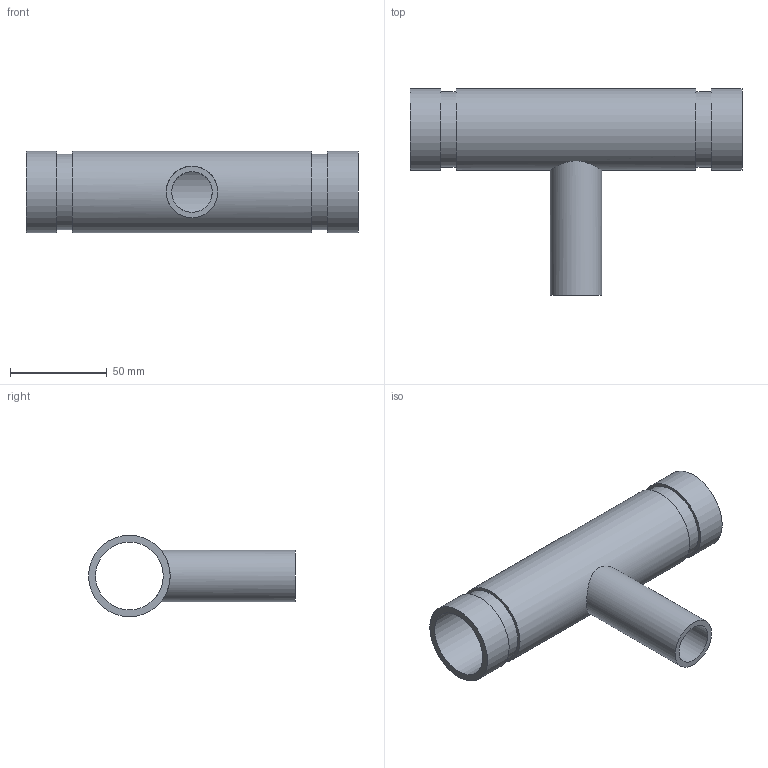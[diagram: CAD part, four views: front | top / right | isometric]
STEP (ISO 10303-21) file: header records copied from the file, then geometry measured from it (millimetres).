
FILE_DESCRIPTION(/* description */ ('VIC REDUCING TEE No 29T FFT (OGSxMPT)','CAx-IF Rec.Pracs.---Representation and Presentation of Product Manufacturing Information (PMI)---4.0---2014-10-13'),/* implementation_level */ '2;1');
FILE_NAME(/* name */ 'C:\Users\kkamble\AppData\Roaming\Autodesk\ApplicationPlugins\Back Up\Victaulic_IPS_Tee Reducing_No 29T FFT (OGSxMPT)\Victaulic_IPS_Tee Reducing_No 29T FFT (OGSxMPT)_01.25x0.75 (32x20).stp',/* time_stamp */ '2020-09-16T22:36:41+05:00',/* author */ ('CORINNE GRAY'),/* organization */ ('Victaulic'),/* preprocessor_version */ 'ST-DEVELOPER v17.2',/* originating_system */ 'Autodesk Inventor 2019',/* authorisation */ '');
FILE_SCHEMA (('AP242_MANAGED_MODEL_BASED_3D_ENGINEERING_MIM_LF { 1 0 10303 442 1 1 4 }'));
Length unit declared in the file: inch
Products named in the file (1): 29 FFT-01.25x0.75
Bounding box: 171.7 x 106.93 x 42.16 mm (x, y, z)
Volume: 83855.8 mm3; surface area: 52649.5 mm2
Topology: 1 solids, 1 shells, 15 faces, 32 edges, 24 vertices
Faces by surface type: cylinder 8, plane 7
Full cylindrical faces by diameter (mm): 20.93 x1, 26.67 x1, 35.052 x1, 38.989 x2, 42.164 x3
Entity records: 669 total; most frequent: CARTESIAN_POINT 181, DIRECTION 106, ORIENTED_EDGE 64, AXIS2_PLACEMENT_3D 49, EDGE_CURVE 32, EDGE_LOOP 24, VERTEX_POINT 24, CIRCLE 20
